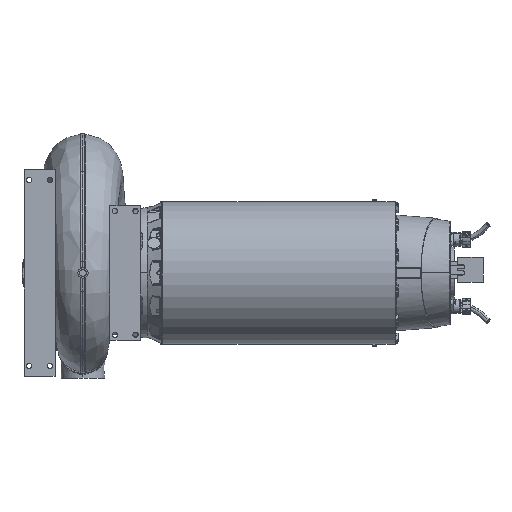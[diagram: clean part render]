
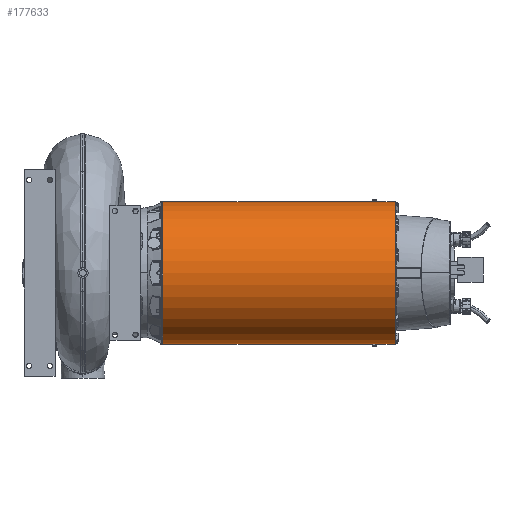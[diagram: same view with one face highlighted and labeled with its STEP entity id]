
A CAD part, front view. The second image highlights one B-rep face of the part: STEP entity #177633.
In plain terms, the highlighted cylindrical face has radius 344 mm (diameter 688 mm), a partial arc.
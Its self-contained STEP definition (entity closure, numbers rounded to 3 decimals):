
#2045 = CARTESIAN_POINT ( 'NONE',  ( 1245.349, -9.5, -343.869 ) ) ;
#7690 =( BOUNDED_CURVE ( )  B_SPLINE_CURVE ( 3, ( #163633, #197381, #43641, #60691 ),
 .UNSPECIFIED., .F., .F. ) 
 B_SPLINE_CURVE_WITH_KNOTS ( ( 4, 4 ),
 ( 1.571, 1.598 ),
 .UNSPECIFIED. ) 
 CURVE ( )  GEOMETRIC_REPRESENTATION_ITEM ( )  RATIONAL_B_SPLINE_CURVE ( ( 1., 1., 1., 1. ) ) 
 REPRESENTATION_ITEM ( '' )  );
#8596 = CARTESIAN_POINT ( 'NONE',  ( 1015.97, 0., -344. ) ) ;
#10373 = VERTEX_POINT ( 'NONE', #191160 ) ;
#10540 = DIRECTION ( 'NONE',  ( -1., 0., 0. ) ) ;
#12809 = CARTESIAN_POINT ( 'NONE',  ( 1105., 0., 0. ) ) ;
#14631 = VERTEX_POINT ( 'NONE', #27421 ) ;
#18354 = VECTOR ( 'NONE', #75004, 1000. ) ;
#19097 = EDGE_CURVE ( 'NONE', #168091, #143411, #75575, .T. ) ;
#21889 = VERTEX_POINT ( 'NONE', #206951 ) ;
#23769 = LINE ( 'NONE', #109594, #18354 ) ;
#24739 = VECTOR ( 'NONE', #53626, 1000. ) ;
#25753 = ORIENTED_EDGE ( 'NONE', *, *, #68822, .T. ) ;
#26446 = VERTEX_POINT ( 'NONE', #185090 ) ;
#26831 = EDGE_CURVE ( 'NONE', #159977, #168091, #58104, .T. ) ;
#27421 = CARTESIAN_POINT ( 'NONE',  ( 994.03, 0., -344. ) ) ;
#28392 = CARTESIAN_POINT ( 'NONE',  ( 999.515, -9.5, -343.869 ) ) ;
#30050 = DIRECTION ( 'NONE',  ( 0., 0., -1. ) ) ;
#30067 = EDGE_CURVE ( 'NONE', #214145, #80809, #98128, .T. ) ;
#30230 = DIRECTION ( 'NONE',  ( -1., 0., 0. ) ) ;
#36916 = CYLINDRICAL_SURFACE ( 'NONE', #119444, 344. ) ;
#40671 = CARTESIAN_POINT ( 'NONE',  ( 999.515, -9.5, -343.869 ) ) ;
#43641 = CARTESIAN_POINT ( 'NONE',  ( 1012.313, -6.334, 343.956 ) ) ;
#43889 = AXIS2_PLACEMENT_3D ( 'NONE', #12809, #132661, #30050 ) ;
#45664 = CARTESIAN_POINT ( 'NONE',  ( 995.859, -3.167, -344. ) ) ;
#45775 = EDGE_CURVE ( 'NONE', #201778, #10373, #172091, .T. ) ;
#48277 = CARTESIAN_POINT ( 'NONE',  ( 1014.141, -3.167, -344. ) ) ;
#48428 = CARTESIAN_POINT ( 'NONE',  ( 0., 0., 344. ) ) ;
#53232 = EDGE_CURVE ( 'NONE', #26446, #201778, #103337, .T. ) ;
#53626 = DIRECTION ( 'NONE',  ( -1., 0., 0. ) ) ;
#54491 =( BOUNDED_CURVE ( )  B_SPLINE_CURVE ( 3, ( #28392, #131028, #45664, #165689 ),
 .UNSPECIFIED., .F., .F. ) 
 B_SPLINE_CURVE_WITH_KNOTS ( ( 4, 4 ),
 ( 1.543, 1.571 ),
 .UNSPECIFIED. ) 
 CURVE ( )  GEOMETRIC_REPRESENTATION_ITEM ( )  RATIONAL_B_SPLINE_CURVE ( ( 1., 1., 1., 1. ) ) 
 REPRESENTATION_ITEM ( '' )  );
#58104 =( BOUNDED_CURVE ( )  B_SPLINE_CURVE ( 3, ( #131412, #48277, #150905, #65306 ),
 .UNSPECIFIED., .F., .T. ) 
 B_SPLINE_CURVE_WITH_KNOTS ( ( 4, 4 ),
 ( 1.571, 1.598 ),
 .UNSPECIFIED. ) 
 CURVE ( )  GEOMETRIC_REPRESENTATION_ITEM ( )  RATIONAL_B_SPLINE_CURVE ( ( 1., 1., 1., 1. ) ) 
 REPRESENTATION_ITEM ( '' )  );
#60691 = CARTESIAN_POINT ( 'NONE',  ( 1010.485, -9.5, 343.869 ) ) ;
#65306 = CARTESIAN_POINT ( 'NONE',  ( 1010.485, -9.5, -343.869 ) ) ;
#65449 = DIRECTION ( 'NONE',  ( -1., 0., 0. ) ) ;
#68822 = EDGE_CURVE ( 'NONE', #80809, #190674, #214028, .T. ) ;
#69465 = CARTESIAN_POINT ( 'NONE',  ( 994.03, 0., 344. ) ) ;
#70262 = ORIENTED_EDGE ( 'NONE', *, *, #19097, .F. ) ;
#71955 = CARTESIAN_POINT ( 'NONE',  ( 997.687, -6.334, 343.956 ) ) ;
#73533 = ORIENTED_EDGE ( 'NONE', *, *, #132496, .F. ) ;
#75004 = DIRECTION ( 'NONE',  ( -1., 0., 0. ) ) ;
#75575 = LINE ( 'NONE', #2045, #24739 ) ;
#80569 = VECTOR ( 'NONE', #81860, 1000. ) ;
#80809 = VERTEX_POINT ( 'NONE', #90206 ) ;
#81860 = DIRECTION ( 'NONE',  ( -1., 0., 0. ) ) ;
#86554 = AXIS2_PLACEMENT_3D ( 'NONE', #132844, #30230, #150123 ) ;
#89211 = CARTESIAN_POINT ( 'NONE',  ( 994.03, 0., 344. ) ) ;
#90206 = CARTESIAN_POINT ( 'NONE',  ( 1105., 0., 344. ) ) ;
#96961 = CARTESIAN_POINT ( 'NONE',  ( 1010.485, -9.5, 343.869 ) ) ;
#98128 = CIRCLE ( 'NONE', #43889, 344. ) ;
#100902 = LINE ( 'NONE', #193688, #141216 ) ;
#103270 = DIRECTION ( 'NONE',  ( 0., 0., -1. ) ) ;
#103337 =( BOUNDED_CURVE ( )  B_SPLINE_CURVE ( 3, ( #174934, #71955, #192160, #89211 ),
 .UNSPECIFIED., .F., .T. ) 
 B_SPLINE_CURVE_WITH_KNOTS ( ( 4, 4 ),
 ( 1.543, 1.571 ),
 .UNSPECIFIED. ) 
 CURVE ( )  GEOMETRIC_REPRESENTATION_ITEM ( )  RATIONAL_B_SPLINE_CURVE ( ( 1., 1., 1., 1. ) ) 
 REPRESENTATION_ITEM ( '' )  );
#108029 = DIRECTION ( 'NONE',  ( -1., 0., 0. ) ) ;
#109594 = CARTESIAN_POINT ( 'NONE',  ( 0., 0., -344. ) ) ;
#110172 = EDGE_LOOP ( 'NONE', ( #175425, #25753, #216013, #184824, #183985, #129597, #195337, #73533, #213841, #70262, #188764, #188357 ) ) ;
#111615 = CARTESIAN_POINT ( 'NONE',  ( 1015.97, 0., 344. ) ) ;
#116833 = CIRCLE ( 'NONE', #86554, 344. ) ;
#119444 = AXIS2_PLACEMENT_3D ( 'NONE', #119818, #137070, #103270 ) ;
#119818 = CARTESIAN_POINT ( 'NONE',  ( 0., 0., 0. ) ) ;
#120523 = EDGE_CURVE ( 'NONE', #143411, #14631, #54491, .T. ) ;
#122597 = VECTOR ( 'NONE', #65449, 1000. ) ;
#125109 = EDGE_CURVE ( 'NONE', #190674, #136189, #7690, .T. ) ;
#129597 = ORIENTED_EDGE ( 'NONE', *, *, #45775, .T. ) ;
#131028 = CARTESIAN_POINT ( 'NONE',  ( 997.687, -6.334, -343.956 ) ) ;
#131412 = CARTESIAN_POINT ( 'NONE',  ( 1015.97, 0., -344. ) ) ;
#132496 = EDGE_CURVE ( 'NONE', #14631, #21889, #23769, .T. ) ;
#132661 = DIRECTION ( 'NONE',  ( -1., 0., 0. ) ) ;
#132844 = CARTESIAN_POINT ( 'NONE',  ( -20., 0., 0. ) ) ;
#136189 = VERTEX_POINT ( 'NONE', #96961 ) ;
#137070 = DIRECTION ( 'NONE',  ( -1., 0., 0. ) ) ;
#141216 = VECTOR ( 'NONE', #108029, 1000. ) ;
#143411 = VERTEX_POINT ( 'NONE', #40671 ) ;
#150123 = DIRECTION ( 'NONE',  ( 0., -1., 0. ) ) ;
#150905 = CARTESIAN_POINT ( 'NONE',  ( 1012.313, -6.334, -343.956 ) ) ;
#152460 = EDGE_CURVE ( 'NONE', #136189, #26446, #193960, .T. ) ;
#159977 = VERTEX_POINT ( 'NONE', #8596 ) ;
#163633 = CARTESIAN_POINT ( 'NONE',  ( 1015.97, 0., 344. ) ) ;
#165689 = CARTESIAN_POINT ( 'NONE',  ( 994.03, 0., -344. ) ) ;
#168091 = VERTEX_POINT ( 'NONE', #173838 ) ;
#172091 = LINE ( 'NONE', #219438, #80569 ) ;
#173838 = CARTESIAN_POINT ( 'NONE',  ( 1010.485, -9.5, -343.869 ) ) ;
#174934 = CARTESIAN_POINT ( 'NONE',  ( 999.515, -9.5, 343.869 ) ) ;
#175425 = ORIENTED_EDGE ( 'NONE', *, *, #30067, .T. ) ;
#177633 = ADVANCED_FACE ( 'NONE', ( #206138 ), #36916, .T. ) ;
#178542 = EDGE_CURVE ( 'NONE', #21889, #10373, #116833, .T. ) ;
#183985 = ORIENTED_EDGE ( 'NONE', *, *, #53232, .T. ) ;
#184824 = ORIENTED_EDGE ( 'NONE', *, *, #152460, .T. ) ;
#185090 = CARTESIAN_POINT ( 'NONE',  ( 999.515, -9.5, 343.869 ) ) ;
#185751 = EDGE_CURVE ( 'NONE', #214145, #159977, #100902, .T. ) ;
#188357 = ORIENTED_EDGE ( 'NONE', *, *, #185751, .F. ) ;
#188581 = VECTOR ( 'NONE', #10540, 1000. ) ;
#188764 = ORIENTED_EDGE ( 'NONE', *, *, #26831, .F. ) ;
#190674 = VERTEX_POINT ( 'NONE', #111615 ) ;
#191160 = CARTESIAN_POINT ( 'NONE',  ( -20., 0., 344. ) ) ;
#192160 = CARTESIAN_POINT ( 'NONE',  ( 995.859, -3.167, 344. ) ) ;
#193688 = CARTESIAN_POINT ( 'NONE',  ( 0., 0., -344. ) ) ;
#193960 = LINE ( 'NONE', #213055, #188581 ) ;
#195337 = ORIENTED_EDGE ( 'NONE', *, *, #178542, .F. ) ;
#197381 = CARTESIAN_POINT ( 'NONE',  ( 1014.141, -3.167, 344. ) ) ;
#201778 = VERTEX_POINT ( 'NONE', #69465 ) ;
#205840 = CARTESIAN_POINT ( 'NONE',  ( 1105., 0., -344. ) ) ;
#206138 = FACE_OUTER_BOUND ( 'NONE', #110172, .T. ) ;
#206951 = CARTESIAN_POINT ( 'NONE',  ( -20., 0., -344. ) ) ;
#213055 = CARTESIAN_POINT ( 'NONE',  ( 1245.349, -9.5, 343.869 ) ) ;
#213841 = ORIENTED_EDGE ( 'NONE', *, *, #120523, .F. ) ;
#214028 = LINE ( 'NONE', #48428, #122597 ) ;
#214145 = VERTEX_POINT ( 'NONE', #205840 ) ;
#216013 = ORIENTED_EDGE ( 'NONE', *, *, #125109, .T. ) ;
#219438 = CARTESIAN_POINT ( 'NONE',  ( 0., 0., 344. ) ) ;
